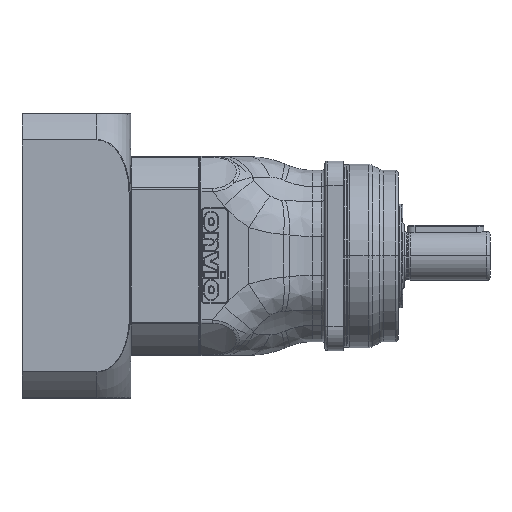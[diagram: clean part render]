
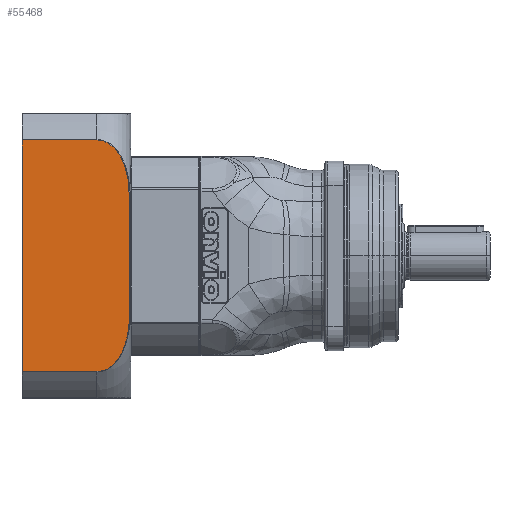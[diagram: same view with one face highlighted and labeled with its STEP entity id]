
A CAD part, top view. The second image highlights one B-rep face of the part: STEP entity #55468.
In plain terms, the highlighted planar face has unit normal (0, 0, 1).
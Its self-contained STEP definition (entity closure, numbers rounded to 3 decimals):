
#114 = EDGE_CURVE ( 'NONE', #45082, #19131, #25215, .T. ) ;
#1478 = CARTESIAN_POINT ( 'NONE',  ( -88.287, 24.892, 46.5 ) ) ;
#1490 = VECTOR ( 'NONE', #27167, 1000. ) ;
#1510 = FACE_OUTER_BOUND ( 'NONE', #3568, .T. ) ;
#1784 = CARTESIAN_POINT ( 'NONE',  ( -87.7, 18.269, 46.5 ) ) ;
#1867 = CARTESIAN_POINT ( 'NONE',  ( -90.175, -31.308, 46.5 ) ) ;
#3568 = EDGE_LOOP ( 'NONE', ( #33116, #25888, #34257, #53419, #10113, #42889 ) ) ;
#5169 = CARTESIAN_POINT ( 'NONE',  ( -94.071, -36.332, 46.5 ) ) ;
#6368 = CARTESIAN_POINT ( 'NONE',  ( -93.41, -35.82, 46.5 ) ) ;
#7840 = CARTESIAN_POINT ( 'NONE',  ( -87.5, 46.5, 46.5 ) ) ;
#8525 = DIRECTION ( 'NONE',  ( 0., 1., 0. ) ) ;
#9537 = CARTESIAN_POINT ( 'NONE',  ( -96.299, 37.493, 46.5 ) ) ;
#9718 = CARTESIAN_POINT ( 'NONE',  ( -89.004, -28.168, 46.5 ) ) ;
#10029 = CARTESIAN_POINT ( 'NONE',  ( -97.369, -37.775, 46.5 ) ) ;
#10113 = ORIENTED_EDGE ( 'NONE', *, *, #42189, .T. ) ;
#10432 = CARTESIAN_POINT ( 'NONE',  ( -95.77, 37.296, 46.5 ) ) ;
#10533 = CARTESIAN_POINT ( 'NONE',  ( -90.942, 32.774, 46.5 ) ) ;
#10831 = CARTESIAN_POINT ( 'NONE',  ( -92.994, 35.42, 46.5 ) ) ;
#11164 = VECTOR ( 'NONE', #52840, 1000. ) ;
#11251 = B_SPLINE_CURVE_WITH_KNOTS ( 'NONE', 3,
 ( #38112, #1784, #15101, #33537, #1478, #34150, #19941, #52077, #52678, #10533, #38404, #56896, #15412, #52371, #10831, #29593, #20254, #33429, #51968, #23764, #10432, #9537, #23475, #51678, #19237, #28905 ),
 .UNSPECIFIED., .F., .F.,
 ( 4, 2, 2, 2, 2, 2, 2, 2, 2, 2, 2, 2, 4 ),
 ( 0., 0.007, 0.01, 0.013, 0.017, 0.018, 0.02, 0.021, 0.022, 0.023, 0.024, 0.025, 0.027 ),
 .UNSPECIFIED. ) ;
#12679 = LINE ( 'NONE', #34494, #1490 ) ;
#14584 = CARTESIAN_POINT ( 'NONE',  ( -87.771, -20.49, 46.5 ) ) ;
#15101 = CARTESIAN_POINT ( 'NONE',  ( -87.771, 20.489, 46.5 ) ) ;
#15412 = CARTESIAN_POINT ( 'NONE',  ( -92.229, 34.609, 46.5 ) ) ;
#18762 = VECTOR ( 'NONE', #19418, 1000. ) ;
#19131 = VERTEX_POINT ( 'NONE', #24529 ) ;
#19237 = CARTESIAN_POINT ( 'NONE',  ( -97.933, 37.846, 46.5 ) ) ;
#19418 = DIRECTION ( 'NONE',  ( -1., 0., 0. ) ) ;
#19941 = CARTESIAN_POINT ( 'NONE',  ( -89.004, 28.166, 46.5 ) ) ;
#20027 = CARTESIAN_POINT ( 'NONE',  ( -95.771, -37.312, 46.5 ) ) ;
#20254 = CARTESIAN_POINT ( 'NONE',  ( -93.622, 35.984, 46.5 ) ) ;
#20335 = CARTESIAN_POINT ( 'NONE',  ( -89.735, -30.279, 46.5 ) ) ;
#20768 = VERTEX_POINT ( 'NONE', #37963 ) ;
#22844 = CARTESIAN_POINT ( 'NONE',  ( -87.7, -16.041, 46.5 ) ) ;
#23154 = CARTESIAN_POINT ( 'NONE',  ( -123., -37.846, 46.5 ) ) ;
#23475 = CARTESIAN_POINT ( 'NONE',  ( -96.567, 37.576, 46.5 ) ) ;
#23657 = CARTESIAN_POINT ( 'NONE',  ( -88.725, -27.078, 46.5 ) ) ;
#23764 = CARTESIAN_POINT ( 'NONE',  ( -95.511, 37.182, 46.5 ) ) ;
#24529 = CARTESIAN_POINT ( 'NONE',  ( -98.5, -37.846, 46.5 ) ) ;
#24855 = CARTESIAN_POINT ( 'NONE',  ( -91.222, -33.285, 46.5 ) ) ;
#24935 = CARTESIAN_POINT ( 'NONE',  ( -98.5, -37.846, 46.5 ) ) ;
#25215 = LINE ( 'NONE', #24935, #11164 ) ;
#25390 = DIRECTION ( 'NONE',  ( 0., 0., 1. ) ) ;
#25888 = ORIENTED_EDGE ( 'NONE', *, *, #114, .T. ) ;
#27167 = DIRECTION ( 'NONE',  ( 0., 1., 0. ) ) ;
#28482 = CARTESIAN_POINT ( 'NONE',  ( -87.7, -18.269, 46.5 ) ) ;
#28795 = CARTESIAN_POINT ( 'NONE',  ( -89.538, -29.757, 46.5 ) ) ;
#28905 = CARTESIAN_POINT ( 'NONE',  ( -98.5, 37.846, 46.5 ) ) ;
#29593 = CARTESIAN_POINT ( 'NONE',  ( -93.406, 35.8, 46.5 ) ) ;
#31812 = CARTESIAN_POINT ( 'NONE',  ( -87.7, 15.452, 46.5 ) ) ;
#32147 = CARTESIAN_POINT ( 'NONE',  ( -98.5, 37.846, 46.5 ) ) ;
#33033 = CARTESIAN_POINT ( 'NONE',  ( -92.999, -35.439, 46.5 ) ) ;
#33116 = ORIENTED_EDGE ( 'NONE', *, *, #37025, .F. ) ;
#33429 = CARTESIAN_POINT ( 'NONE',  ( -94.289, 36.502, 46.5 ) ) ;
#33537 = CARTESIAN_POINT ( 'NONE',  ( -88.127, 23.795, 46.5 ) ) ;
#33633 = CARTESIAN_POINT ( 'NONE',  ( -95.019, -36.934, 46.5 ) ) ;
#34012 = EDGE_CURVE ( 'NONE', #37796, #20768, #54870, .T. ) ;
#34150 = CARTESIAN_POINT ( 'NONE',  ( -88.724, 27.075, 46.5 ) ) ;
#34257 = ORIENTED_EDGE ( 'NONE', *, *, #43696, .T. ) ;
#34494 = CARTESIAN_POINT ( 'NONE',  ( -123., 46.5, 46.5 ) ) ;
#34785 = PLANE ( 'NONE',  #38492 ) ;
#35386 = DIRECTION ( 'NONE',  ( 1., 0., 0. ) ) ;
#36690 = LINE ( 'NONE', #55184, #18762 ) ;
#37025 = EDGE_CURVE ( 'NONE', #45082, #43588, #12679, .T. ) ;
#37604 = CARTESIAN_POINT ( 'NONE',  ( -91.85, -34.202, 46.5 ) ) ;
#37796 = VERTEX_POINT ( 'NONE', #22844 ) ;
#37963 = CARTESIAN_POINT ( 'NONE',  ( -87.7, 16.041, 46.5 ) ) ;
#38112 = CARTESIAN_POINT ( 'NONE',  ( -87.7, 16.041, 46.5 ) ) ;
#38404 = CARTESIAN_POINT ( 'NONE',  ( -91.238, 33.256, 46.5 ) ) ;
#38492 = AXIS2_PLACEMENT_3D ( 'NONE', #7840, #25390, #35386 ) ;
#40010 = B_SPLINE_CURVE_WITH_KNOTS ( 'NONE', 3,
 ( #46706, #56986, #10029, #51266, #20027, #33633, #52459, #52161, #5169, #6368, #33033, #37604, #24855, #43362, #1867, #20335, #28795, #9718, #23657, #47299, #56065, #14584, #28482, #42484 ),
 .UNSPECIFIED., .F., .F.,
 ( 4, 2, 2, 2, 2, 2, 2, 2, 2, 2, 2, 4 ),
 ( 0., 0.002, 0.003, 0.004, 0.005, 0.007, 0.01, 0.012, 0.014, 0.017, 0.02, 0.027 ),
 .UNSPECIFIED. ) ;
#42189 = EDGE_CURVE ( 'NONE', #20768, #52985, #11251, .T. ) ;
#42484 = CARTESIAN_POINT ( 'NONE',  ( -87.7, -16.041, 46.5 ) ) ;
#42889 = ORIENTED_EDGE ( 'NONE', *, *, #49890, .T. ) ;
#43362 = CARTESIAN_POINT ( 'NONE',  ( -90.419, -31.815, 46.5 ) ) ;
#43588 = VERTEX_POINT ( 'NONE', #47608 ) ;
#43696 = EDGE_CURVE ( 'NONE', #19131, #37796, #40010, .T. ) ;
#45082 = VERTEX_POINT ( 'NONE', #23154 ) ;
#46706 = CARTESIAN_POINT ( 'NONE',  ( -98.5, -37.846, 46.5 ) ) ;
#47299 = CARTESIAN_POINT ( 'NONE',  ( -88.287, -24.894, 46.5 ) ) ;
#47608 = CARTESIAN_POINT ( 'NONE',  ( -123., 37.846, 46.5 ) ) ;
#49890 = EDGE_CURVE ( 'NONE', #52985, #43588, #36690, .T. ) ;
#51266 = CARTESIAN_POINT ( 'NONE',  ( -96.29, -37.507, 46.5 ) ) ;
#51678 = CARTESIAN_POINT ( 'NONE',  ( -97.379, 37.776, 46.5 ) ) ;
#51968 = CARTESIAN_POINT ( 'NONE',  ( -94.76, 36.804, 46.5 ) ) ;
#52077 = CARTESIAN_POINT ( 'NONE',  ( -89.713, 30.278, 46.5 ) ) ;
#52161 = CARTESIAN_POINT ( 'NONE',  ( -94.299, -36.493, 46.5 ) ) ;
#52371 = CARTESIAN_POINT ( 'NONE',  ( -92.797, 35.222, 46.5 ) ) ;
#52459 = CARTESIAN_POINT ( 'NONE',  ( -94.772, -36.794, 46.5 ) ) ;
#52534 = VECTOR ( 'NONE', #8525, 1000. ) ;
#52678 = CARTESIAN_POINT ( 'NONE',  ( -90.141, 31.302, 46.5 ) ) ;
#52840 = DIRECTION ( 'NONE',  ( 1., 0., 0. ) ) ;
#52985 = VERTEX_POINT ( 'NONE', #32147 ) ;
#53419 = ORIENTED_EDGE ( 'NONE', *, *, #34012, .T. ) ;
#54870 = LINE ( 'NONE', #31812, #52534 ) ;
#55184 = CARTESIAN_POINT ( 'NONE',  ( -123., 37.846, 46.5 ) ) ;
#55468 = ADVANCED_FACE ( 'NONE', ( #1510 ), #34785, .T. ) ;
#56065 = CARTESIAN_POINT ( 'NONE',  ( -88.127, -23.796, 46.5 ) ) ;
#56896 = CARTESIAN_POINT ( 'NONE',  ( -91.881, 34.173, 46.5 ) ) ;
#56986 = CARTESIAN_POINT ( 'NONE',  ( -97.934, -37.846, 46.5 ) ) ;
